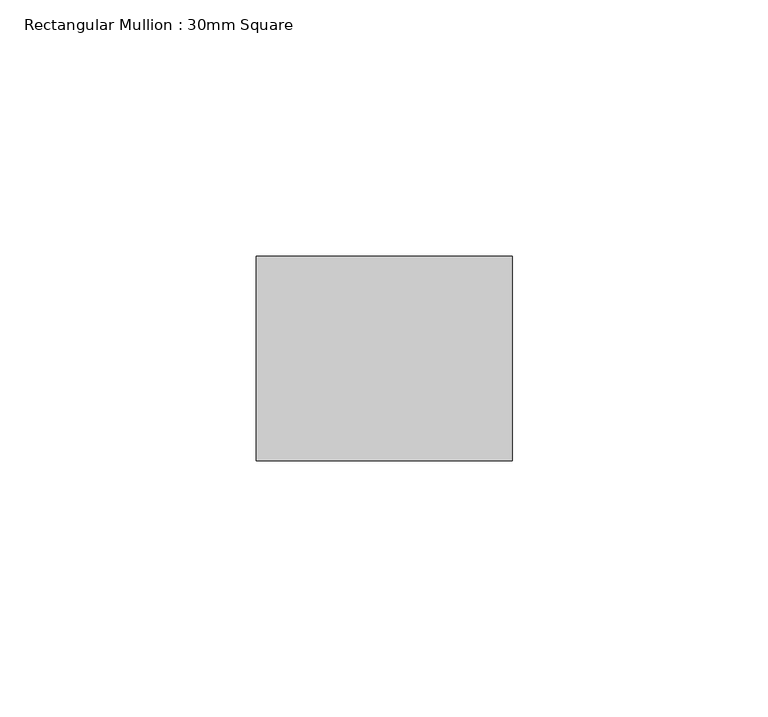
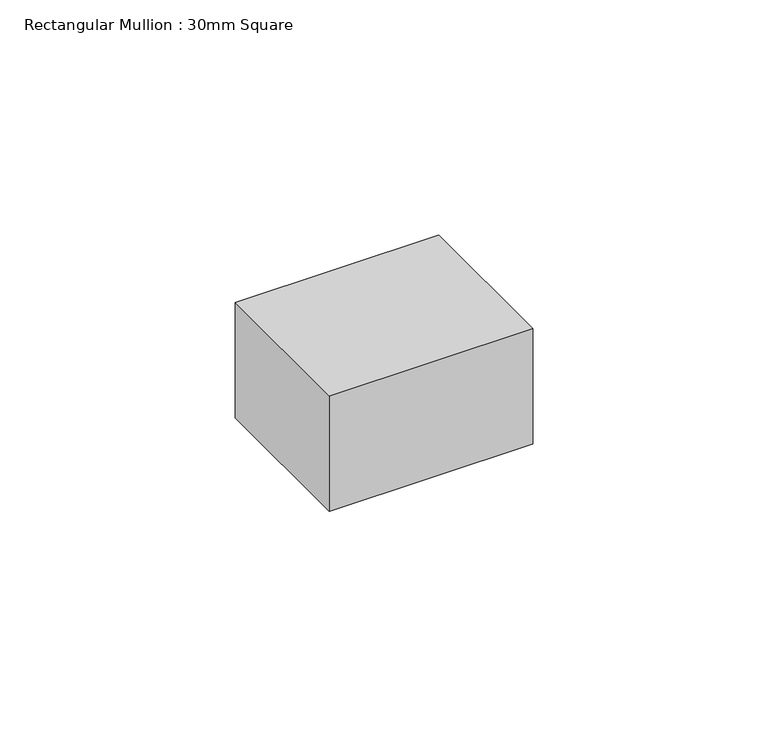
"""IFC4 building model written with IfcOpenShell, lengths in millimetres: member geometry, Rectangular Mullion : 30mm Square."""

from ifc_helpers import new_model, si_unit, frame, origin, place, context, project, spatial, polyline, outline, extrude, source, transform, mapped, element, save


def rectangular_mullion_30mm_square_5b0a7153(model_context):
    return source(origin(), model_context, "Body", "SweptSolid", [
        extrude(outline(polyline([(0.0, 20.0), (0.0, -20.0), (-50.0, -20.0), (-50.0, 20.0), (0.0, 20.0)])), frame((0.0, 0.0, -30.0662338), z_axis=(0.0, 0.0, 1.0), x_axis=(1.0, 0.0, 0.0)), (0.0, 0.0, 1.0), 30.0662338),
    ])


if __name__ == "__main__":
    model = new_model("IFC4")
    model_context = context("Model", 3, world=origin())
    ifc_project = project(units=[si_unit("LENGTHUNIT", "METRE", prefix="MILLI")], contexts=[model_context])
    site = spatial("IfcSite", under=ifc_project)
    building = spatial("IfcBuilding", under=site)
    placement = place(None, origin())
    rectangular_mullion_30mm_square_shape = rectangular_mullion_30mm_square_5b0a7153(model_context)
    element("IfcMember", 1, ObjectType="Rectangular Mullion : 30mm Square", at=placement, inside=building, context=model_context, shape_type="MappedRepresentation", body=[
        mapped(rectangular_mullion_30mm_square_shape, transform((0.0, 0.0, 0.0), x_axis=(1.0, 0.0, 0.0), y_axis=(0.0, 1.0, 0.0), z_axis=(0.0, 0.0, 1.0))),
    ])
    save(model, "model.ifc")
